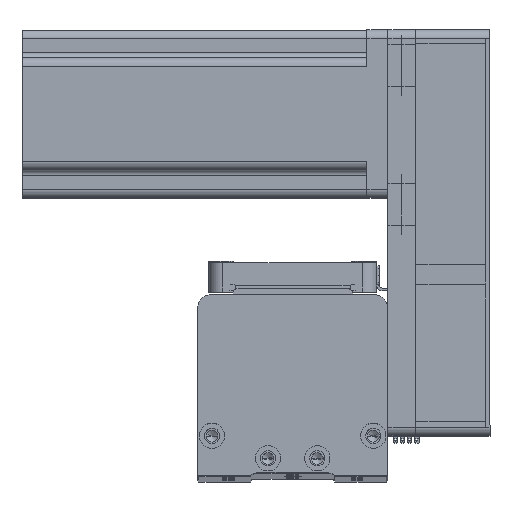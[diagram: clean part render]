
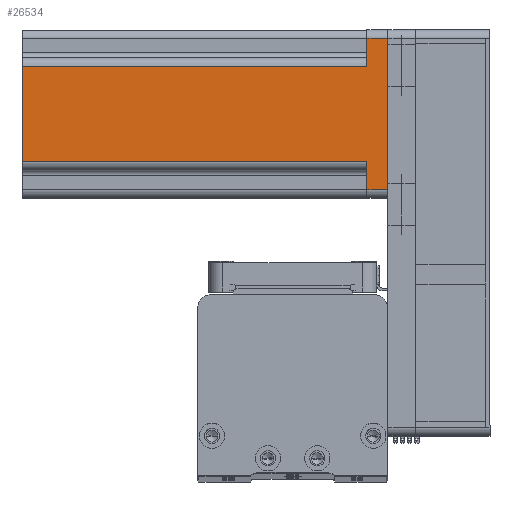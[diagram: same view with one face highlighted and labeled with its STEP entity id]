
A CAD part, top view. The second image highlights one B-rep face of the part: STEP entity #26534.
In plain terms, the highlighted planar face has unit normal (0, 0, 1) as drawn and (0, -1, 0) by its records, which use the part's own axes.
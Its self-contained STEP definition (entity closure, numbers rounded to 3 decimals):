
#89 = DIRECTION ( 'NONE',  ( 1., 0., 0. ) ) ;
#1874 = EDGE_CURVE ( 'NONE', #6235, #9372, #42307, .T. ) ;
#2123 = CARTESIAN_POINT ( 'NONE',  ( -27., -30., 0. ) ) ;
#3479 = VECTOR ( 'NONE', #38912, 1000. ) ;
#3516 = CARTESIAN_POINT ( 'NONE',  ( -27., -30., 7.5 ) ) ;
#5196 = VERTEX_POINT ( 'NONE', #20750 ) ;
#5860 = ORIENTED_EDGE ( 'NONE', *, *, #19389, .F. ) ;
#6235 = VERTEX_POINT ( 'NONE', #3516 ) ;
#7324 = CARTESIAN_POINT ( 'NONE',  ( 30., -30., 130.7 ) ) ;
#8095 = VECTOR ( 'NONE', #30584, 1000. ) ;
#8134 = CARTESIAN_POINT ( 'NONE',  ( 27., -30., 130.7 ) ) ;
#8970 = DIRECTION ( 'NONE',  ( -1., 0., 0. ) ) ;
#9372 = VERTEX_POINT ( 'NONE', #2123 ) ;
#10157 = DIRECTION ( 'NONE',  ( 1., 0., 0. ) ) ;
#10334 = CARTESIAN_POINT ( 'NONE',  ( -20., -30., 7.5 ) ) ;
#10626 = ORIENTED_EDGE ( 'NONE', *, *, #42769, .T. ) ;
#11103 = DIRECTION ( 'NONE',  ( -1., 0., 0. ) ) ;
#11668 = CARTESIAN_POINT ( 'NONE',  ( -17., -30., 130.7 ) ) ;
#14203 = VECTOR ( 'NONE', #8970, 1000. ) ;
#15904 = CARTESIAN_POINT ( 'NONE',  ( -17., -30., 130.7 ) ) ;
#17140 = LINE ( 'NONE', #47435, #46411 ) ;
#18090 = VERTEX_POINT ( 'NONE', #20832 ) ;
#18534 = CARTESIAN_POINT ( 'NONE',  ( 27., -30., 0. ) ) ;
#19257 = LINE ( 'NONE', #45672, #47310 ) ;
#19389 = EDGE_CURVE ( 'NONE', #29656, #18090, #19257, .T. ) ;
#20041 = AXIS2_PLACEMENT_3D ( 'NONE', #7324, #33955, #11103 ) ;
#20050 = VERTEX_POINT ( 'NONE', #35808 ) ;
#20750 = CARTESIAN_POINT ( 'NONE',  ( 27., -30., 7.5 ) ) ;
#20832 = CARTESIAN_POINT ( 'NONE',  ( 17., -30., 130.7 ) ) ;
#22326 = FACE_OUTER_BOUND ( 'NONE', #31694, .T. ) ;
#24278 = CARTESIAN_POINT ( 'NONE',  ( 20., -30., 7.5 ) ) ;
#25198 = LINE ( 'NONE', #10334, #44261 ) ;
#26433 = DIRECTION ( 'NONE',  ( 0., 0., -1. ) ) ;
#26534 = ADVANCED_FACE ( 'NONE', ( #22326 ), #41423, .F. ) ;
#26897 = ORIENTED_EDGE ( 'NONE', *, *, #44666, .T. ) ;
#28879 = VERTEX_POINT ( 'NONE', #44085 ) ;
#29140 = EDGE_CURVE ( 'NONE', #9372, #47753, #33728, .T. ) ;
#29656 = VERTEX_POINT ( 'NONE', #11668 ) ;
#30584 = DIRECTION ( 'NONE',  ( 1., 0., 0. ) ) ;
#31694 = EDGE_LOOP ( 'NONE', ( #5860, #38770, #44382, #35549, #39750, #10626, #47259, #26897 ) ) ;
#32197 = VECTOR ( 'NONE', #26433, 1000. ) ;
#33728 = LINE ( 'NONE', #34604, #8095 ) ;
#33861 = LINE ( 'NONE', #15904, #3479 ) ;
#33955 = DIRECTION ( 'NONE',  ( 0., 1., 0. ) ) ;
#34544 = LINE ( 'NONE', #24278, #14203 ) ;
#34604 = CARTESIAN_POINT ( 'NONE',  ( 30., -30., 0. ) ) ;
#34805 = DIRECTION ( 'NONE',  ( 0., 0., 1. ) ) ;
#35338 = EDGE_CURVE ( 'NONE', #5196, #28879, #34544, .T. ) ;
#35549 = ORIENTED_EDGE ( 'NONE', *, *, #1874, .T. ) ;
#35808 = CARTESIAN_POINT ( 'NONE',  ( -17., -30., 7.5 ) ) ;
#37394 = LINE ( 'NONE', #8134, #46350 ) ;
#38770 = ORIENTED_EDGE ( 'NONE', *, *, #42850, .T. ) ;
#38912 = DIRECTION ( 'NONE',  ( 0., 0., -1. ) ) ;
#39750 = ORIENTED_EDGE ( 'NONE', *, *, #29140, .T. ) ;
#41423 = PLANE ( 'NONE',  #20041 ) ;
#41593 = CARTESIAN_POINT ( 'NONE',  ( -27., -30., 130.7 ) ) ;
#42307 = LINE ( 'NONE', #41593, #32197 ) ;
#42769 = EDGE_CURVE ( 'NONE', #47753, #5196, #37394, .T. ) ;
#42850 = EDGE_CURVE ( 'NONE', #29656, #20050, #33861, .T. ) ;
#43606 = DIRECTION ( 'NONE',  ( 0., 0., 1. ) ) ;
#44085 = CARTESIAN_POINT ( 'NONE',  ( 17., -30., 7.5 ) ) ;
#44261 = VECTOR ( 'NONE', #10157, 1000. ) ;
#44382 = ORIENTED_EDGE ( 'NONE', *, *, #47092, .F. ) ;
#44666 = EDGE_CURVE ( 'NONE', #28879, #18090, #17140, .T. ) ;
#45672 = CARTESIAN_POINT ( 'NONE',  ( 30., -30., 130.7 ) ) ;
#46350 = VECTOR ( 'NONE', #34805, 1000. ) ;
#46411 = VECTOR ( 'NONE', #43606, 1000. ) ;
#47092 = EDGE_CURVE ( 'NONE', #6235, #20050, #25198, .T. ) ;
#47259 = ORIENTED_EDGE ( 'NONE', *, *, #35338, .T. ) ;
#47310 = VECTOR ( 'NONE', #89, 1000. ) ;
#47435 = CARTESIAN_POINT ( 'NONE',  ( 17., -30., 130.7 ) ) ;
#47753 = VERTEX_POINT ( 'NONE', #18534 ) ;
